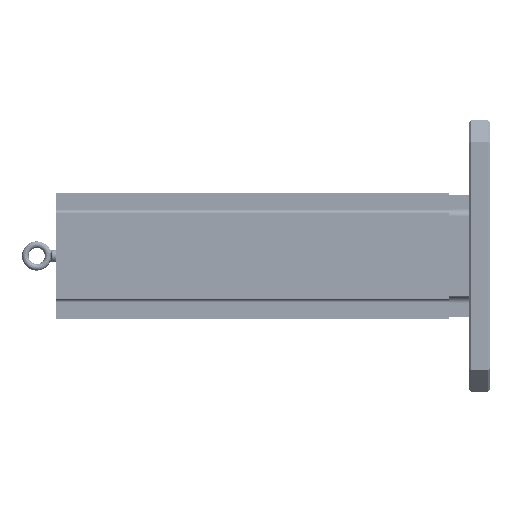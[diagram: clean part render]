
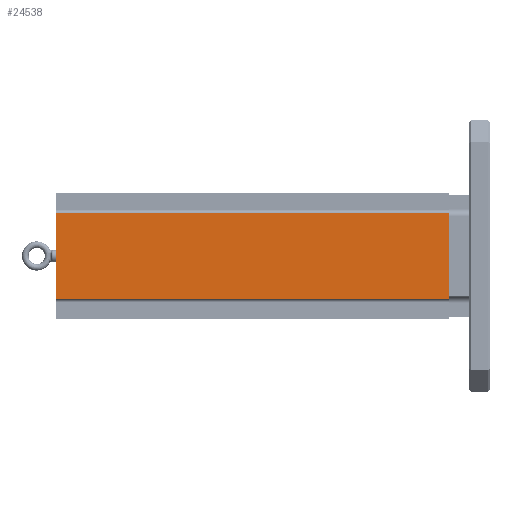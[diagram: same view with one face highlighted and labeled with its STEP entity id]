
A CAD part, left-side view. The second image highlights one B-rep face of the part: STEP entity #24538.
In plain terms, the highlighted planar face has unit normal (-1, 0, 0).
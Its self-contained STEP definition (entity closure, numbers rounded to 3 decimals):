
#1669 = ORIENTED_EDGE ( 'NONE', *, *, #23913, .F. ) ;
#2716 = VERTEX_POINT ( 'NONE', #25921 ) ;
#5282 = DIRECTION ( 'NONE',  ( 0., -1., 0. ) ) ;
#5434 = VECTOR ( 'NONE', #16207, 1000. ) ;
#5476 = CARTESIAN_POINT ( 'NONE',  ( -116.992, 762., -78.511 ) ) ;
#5757 = LINE ( 'NONE', #12955, #5434 ) ;
#6009 = EDGE_LOOP ( 'NONE', ( #19177, #17515, #1669, #27836 ) ) ;
#6451 = CARTESIAN_POINT ( 'NONE',  ( -116.992, 762., 78.511 ) ) ;
#6763 = VERTEX_POINT ( 'NONE', #19183 ) ;
#7015 = LINE ( 'NONE', #11978, #32122 ) ;
#8690 = DIRECTION ( 'NONE',  ( 0., 1., 0. ) ) ;
#10081 = DIRECTION ( 'NONE',  ( 0., 0., 1. ) ) ;
#11978 = CARTESIAN_POINT ( 'NONE',  ( -116.992, 762., -79.273 ) ) ;
#12867 = FACE_OUTER_BOUND ( 'NONE', #6009, .T. ) ;
#12955 = CARTESIAN_POINT ( 'NONE',  ( -116.992, 38.1, -79.273 ) ) ;
#13195 = DIRECTION ( 'NONE',  ( 1., 0., 0. ) ) ;
#14594 = AXIS2_PLACEMENT_3D ( 'NONE', #15610, #13195, #18534 ) ;
#15353 = EDGE_CURVE ( 'NONE', #27898, #2716, #19322, .T. ) ;
#15439 = PLANE ( 'NONE',  #14594 ) ;
#15610 = CARTESIAN_POINT ( 'NONE',  ( -116.992, 762., -79.273 ) ) ;
#16207 = DIRECTION ( 'NONE',  ( 0., 0., -1. ) ) ;
#17515 = ORIENTED_EDGE ( 'NONE', *, *, #15353, .T. ) ;
#18323 = LINE ( 'NONE', #23471, #25681 ) ;
#18534 = DIRECTION ( 'NONE',  ( 0., 0., -1. ) ) ;
#18964 = VERTEX_POINT ( 'NONE', #5476 ) ;
#19177 = ORIENTED_EDGE ( 'NONE', *, *, #29688, .F. ) ;
#19183 = CARTESIAN_POINT ( 'NONE',  ( -116.992, 38.1, -78.511 ) ) ;
#19322 = LINE ( 'NONE', #6451, #31429 ) ;
#23030 = CARTESIAN_POINT ( 'NONE',  ( -116.992, 38.1, 78.511 ) ) ;
#23471 = CARTESIAN_POINT ( 'NONE',  ( -116.992, 762., -78.511 ) ) ;
#23913 = EDGE_CURVE ( 'NONE', #18964, #2716, #7015, .T. ) ;
#24538 = ADVANCED_FACE ( 'NONE', ( #12867 ), #15439, .F. ) ;
#25681 = VECTOR ( 'NONE', #5282, 1000. ) ;
#25921 = CARTESIAN_POINT ( 'NONE',  ( -116.992, 762., 78.511 ) ) ;
#27836 = ORIENTED_EDGE ( 'NONE', *, *, #29113, .T. ) ;
#27898 = VERTEX_POINT ( 'NONE', #23030 ) ;
#29113 = EDGE_CURVE ( 'NONE', #18964, #6763, #18323, .T. ) ;
#29688 = EDGE_CURVE ( 'NONE', #27898, #6763, #5757, .T. ) ;
#31429 = VECTOR ( 'NONE', #8690, 1000. ) ;
#32122 = VECTOR ( 'NONE', #10081, 1000. ) ;
